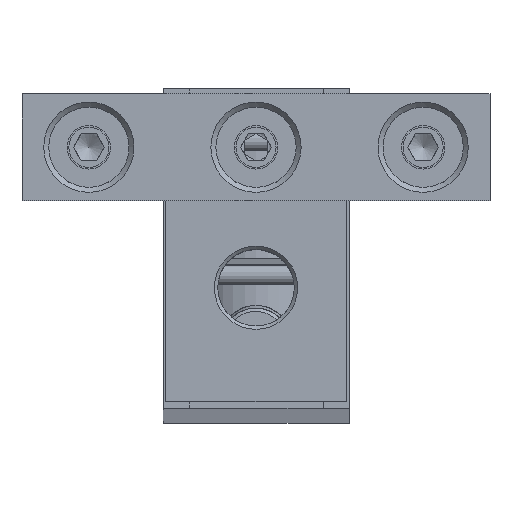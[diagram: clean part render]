
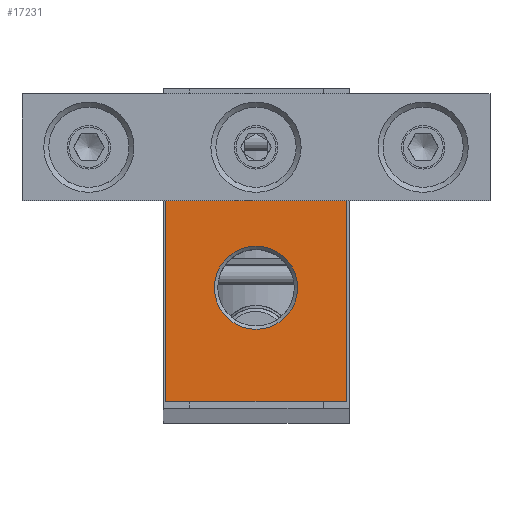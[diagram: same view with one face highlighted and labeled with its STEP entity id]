
A CAD part, top view. The second image highlights one B-rep face of the part: STEP entity #17231.
In plain terms, the highlighted planar face has unit normal (0, 0, 1).
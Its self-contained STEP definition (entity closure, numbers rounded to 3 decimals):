
#1179=LINE('',#33116,#1989);
#1196=LINE('',#33149,#2006);
#1203=LINE('',#33167,#2013);
#1206=LINE('',#33203,#2016);
#1989=VECTOR('',#23840,10.);
#2006=VECTOR('',#23863,10.);
#2013=VECTOR('',#23886,10.);
#2016=VECTOR('',#23899,10.);
#2709=FACE_BOUND('',#4550,.T.);
#3448=FACE_OUTER_BOUND('',#4549,.T.);
#4549=EDGE_LOOP('',(#14097,#14098,#14099,#14100));
#4550=EDGE_LOOP('',(#14101));
#5869=CIRCLE('',#19320,6.223);
#7520=VERTEX_POINT('',#33113);
#7521=VERTEX_POINT('',#33115);
#7533=VERTEX_POINT('',#33146);
#7534=VERTEX_POINT('',#33148);
#7544=VERTEX_POINT('',#33204);
#9791=EDGE_CURVE('',#7520,#7521,#1179,.T.);
#9808=EDGE_CURVE('',#7533,#7534,#1196,.T.);
#9819=EDGE_CURVE('',#7533,#7521,#1203,.T.);
#9827=EDGE_CURVE('',#7520,#7534,#1206,.T.);
#9828=EDGE_CURVE('',#7544,#7544,#5869,.T.);
#14097=ORIENTED_EDGE('',*,*,#9827,.T.);
#14098=ORIENTED_EDGE('',*,*,#9808,.F.);
#14099=ORIENTED_EDGE('',*,*,#9819,.T.);
#14100=ORIENTED_EDGE('',*,*,#9791,.F.);
#14101=ORIENTED_EDGE('',*,*,#9828,.F.);
#15494=PLANE('',#19319);
#17231=ADVANCED_FACE('',(#3448,#2709),#15494,.T.);
#19319=AXIS2_PLACEMENT_3D('',#33202,#23897,#23898);
#19320=AXIS2_PLACEMENT_3D('',#33205,#23900,#23901);
#23840=DIRECTION('',(0.,-1.,0.));
#23863=DIRECTION('',(0.,1.,0.));
#23886=DIRECTION('',(1.,0.,0.));
#23897=DIRECTION('center_axis',(0.,0.,
1.));
#23898=DIRECTION('ref_axis',(0.,-1.,0.));
#23899=DIRECTION('',(-1.,0.,0.));
#23900=DIRECTION('center_axis',(0.,0.,
1.));
#23901=DIRECTION('ref_axis',(-1.,0.,0.));
#33113=CARTESIAN_POINT('',(13.45,7.1,345.));
#33115=CARTESIAN_POINT('',(13.45,-22.9,345.));
#33116=CARTESIAN_POINT('',(13.45,23.1,345.));
#33146=CARTESIAN_POINT('',(-13.55,-22.9,345.));
#33148=CARTESIAN_POINT('',(-13.55,7.1,345.));
#33149=CARTESIAN_POINT('',(-13.55,23.1,345.));
#33167=CARTESIAN_POINT('',(-0.05,-22.9,345.));
#33202=CARTESIAN_POINT('Origin',(-0.05,23.1,345.));
#33203=CARTESIAN_POINT('',(-17.55,7.1,345.));
#33204=CARTESIAN_POINT('',(6.172,-5.9,345.));
#33205=CARTESIAN_POINT('Origin',(-0.05,-5.9,
345.));
